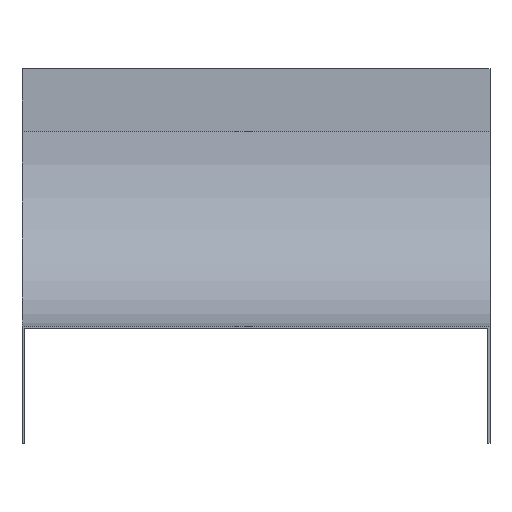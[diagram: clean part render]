
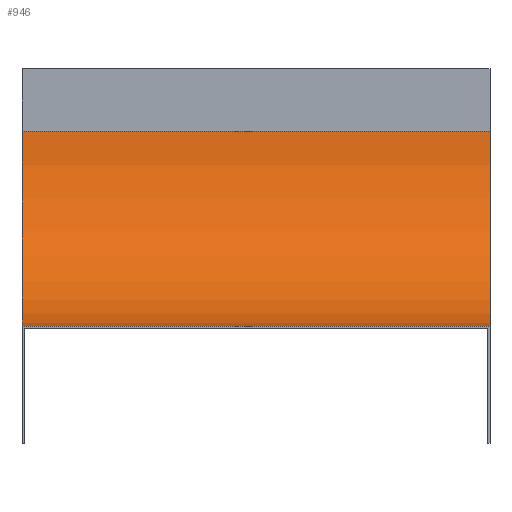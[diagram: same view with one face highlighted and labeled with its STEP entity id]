
A CAD part, front view. The second image highlights one B-rep face of the part: STEP entity #946.
In plain terms, the highlighted cylindrical face has radius 125 mm (diameter 250 mm), a partial arc.
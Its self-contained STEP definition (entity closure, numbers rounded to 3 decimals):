
#16 = DIRECTION ( 'NONE',  ( -1., 0., 0. ) ) ;
#39 = EDGE_CURVE ( 'NONE', #611, #74, #1215, .T. ) ;
#74 = VERTEX_POINT ( 'NONE', #1086 ) ;
#129 = EDGE_CURVE ( 'NONE', #1653, #74, #1657, .T. ) ;
#142 = CARTESIAN_POINT ( 'NONE',  ( 150., 0., -40. ) ) ;
#148 = AXIS2_PLACEMENT_3D ( 'NONE', #550, #1455, #1197 ) ;
#163 = DIRECTION ( 'NONE',  ( -1., 0., 0. ) ) ;
#220 = CIRCLE ( 'NONE', #1359, 125. ) ;
#302 = VECTOR ( 'NONE', #16, 1000. ) ;
#317 = EDGE_CURVE ( 'NONE', #1239, #611, #884, .T. ) ;
#319 = CARTESIAN_POINT ( 'NONE',  ( -150., -125., -40. ) ) ;
#369 = EDGE_LOOP ( 'NONE', ( #1390, #949, #864, #602 ) ) ;
#404 = CYLINDRICAL_SURFACE ( 'NONE', #148, 125. ) ;
#407 = EDGE_CURVE ( 'NONE', #1239, #1653, #220, .T. ) ;
#511 = DIRECTION ( 'NONE',  ( -1., 0., 0. ) ) ;
#550 = CARTESIAN_POINT ( 'NONE',  ( 150., -125., -40. ) ) ;
#602 = ORIENTED_EDGE ( 'NONE', *, *, #317, .T. ) ;
#611 = VERTEX_POINT ( 'NONE', #1151 ) ;
#819 = DIRECTION ( 'NONE',  ( 0., 0., 1. ) ) ;
#833 = VECTOR ( 'NONE', #511, 1000. ) ;
#864 = ORIENTED_EDGE ( 'NONE', *, *, #407, .F. ) ;
#884 = LINE ( 'NONE', #142, #833 ) ;
#918 = AXIS2_PLACEMENT_3D ( 'NONE', #319, #1514, #1095 ) ;
#946 = ADVANCED_FACE ( 'NONE', ( #1306 ), #404, .F. ) ;
#949 = ORIENTED_EDGE ( 'NONE', *, *, #129, .F. ) ;
#1086 = CARTESIAN_POINT ( 'NONE',  ( -150., -125., -165. ) ) ;
#1095 = DIRECTION ( 'NONE',  ( 0., 0., 1. ) ) ;
#1151 = CARTESIAN_POINT ( 'NONE',  ( -150., 0., -40. ) ) ;
#1197 = DIRECTION ( 'NONE',  ( 0., 0., 1. ) ) ;
#1203 = CARTESIAN_POINT ( 'NONE',  ( 150., -125., -40. ) ) ;
#1215 = CIRCLE ( 'NONE', #918, 125. ) ;
#1239 = VERTEX_POINT ( 'NONE', #1611 ) ;
#1306 = FACE_OUTER_BOUND ( 'NONE', #369, .T. ) ;
#1359 = AXIS2_PLACEMENT_3D ( 'NONE', #1203, #163, #819 ) ;
#1390 = ORIENTED_EDGE ( 'NONE', *, *, #39, .T. ) ;
#1455 = DIRECTION ( 'NONE',  ( -1., 0., 0. ) ) ;
#1514 = DIRECTION ( 'NONE',  ( -1., 0., 0. ) ) ;
#1611 = CARTESIAN_POINT ( 'NONE',  ( 150., 0., -40. ) ) ;
#1653 = VERTEX_POINT ( 'NONE', #1675 ) ;
#1657 = LINE ( 'NONE', #1674, #302 ) ;
#1674 = CARTESIAN_POINT ( 'NONE',  ( 150., -125., -165. ) ) ;
#1675 = CARTESIAN_POINT ( 'NONE',  ( 150., -125., -165. ) ) ;
